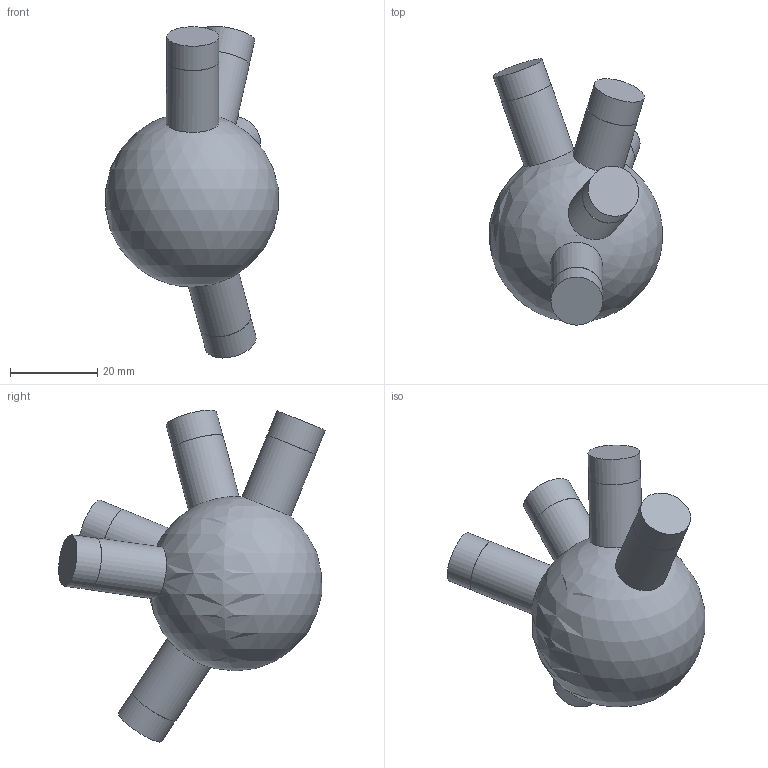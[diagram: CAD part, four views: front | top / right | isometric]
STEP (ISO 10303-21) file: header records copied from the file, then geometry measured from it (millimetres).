
FILE_DESCRIPTION(('Open CASCADE Model'),'2;1');
FILE_NAME('Open CASCADE Shape Model','2026-10-21T12:47:57',('Author'),( 'Open CASCADE'),'Open CASCADE STEP processor 7.9','Open CASCADE 7.9' ,'Unknown');
FILE_SCHEMA(('AUTOMOTIVE_DESIGN { 1 0 10303 214 1 1 1 1 }'));
Length unit declared in the file: millimetre
Products named in the file (1): Open CASCADE STEP translator 7.9 36
Bounding box: 39.7 x 61.11 x 76.12 mm (x, y, z)
Volume: 44917.5 mm3; surface area: 8912.5 mm2
Topology: 1 solids, 1 shells, 21 faces, 35 edges, 24 vertices
Faces by surface type: cylinder 10, plane 10, sphere 1
Full cylindrical faces by diameter (mm): 11.9 x5, 12 x5
Entity records: 1394 total; most frequent: CARTESIAN_POINT 600, DIRECTION 163, ORIENTED_EDGE 68, PCURVE 68, DEFINITIONAL_REPRESENTATION 68, LINE 56, VECTOR 56, AXIS2_PLACEMENT_3D 46
